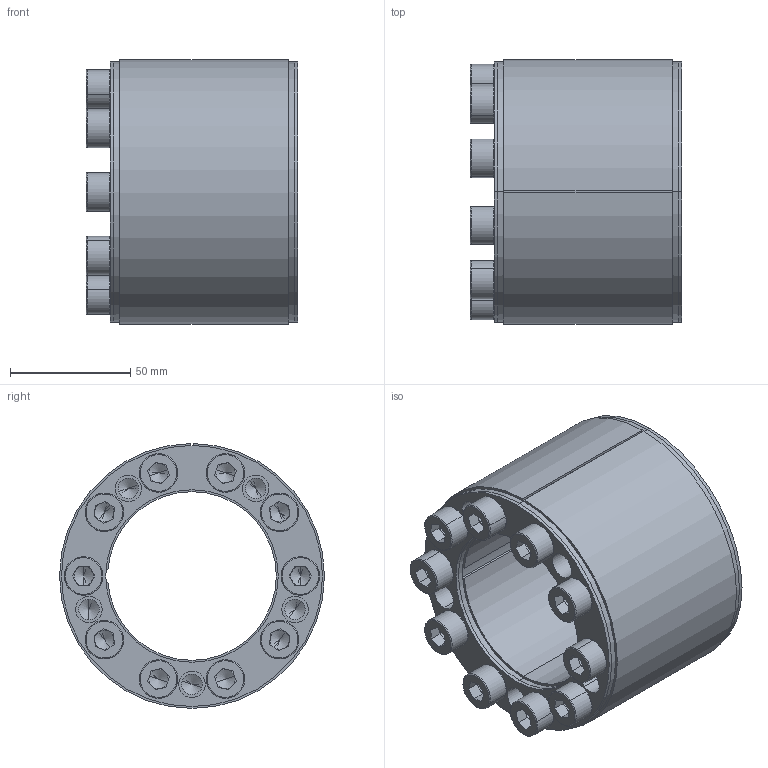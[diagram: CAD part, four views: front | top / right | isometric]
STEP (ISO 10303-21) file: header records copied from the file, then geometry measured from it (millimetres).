
FILE_DESCRIPTION (( 'STEP AP203' ), '1' );
FILE_NAME ('SAPL-D4-70-110.STEP', '2019-10-21T09:51:20', ( '' ), ( '' ), 'SwSTEP 2.0', 'SolidWorks 2015', '' );
FILE_SCHEMA (( 'CONFIG_CONTROL_DESIGN' ));
Length unit declared in the file: millimetre
Products named in the file (3): socket head cap screw_ks_KS 1003 - M10 x 70 x 32-N; SAPL-D4-70-110; D4-70-110 B
Assembly tree (11 placements, depth 2):
  SAPL-D4-70-110
    D4-70-110 B
    socket head cap screw_ks_KS 1003 - M10 x 70 x 32-N  x10
Bounding box: 88 x 110 x 110 mm (x, y, z)
Volume: 450940.3 mm3; surface area: 113177.5 mm2
Topology: 11 solids, 11 shells, 397 faces, 872 edges, 499 vertices
Faces by surface type: plane 166, cylinder 113, torus 60, cone 58
Entity records: 3959 total; most frequent: DIRECTION 674, CARTESIAN_POINT 564, ORIENTED_EDGE 532, AXIS2_PLACEMENT_3D 276, EDGE_CURVE 266, VERTEX_POINT 166, EDGE_LOOP 154, CIRCLE 144
